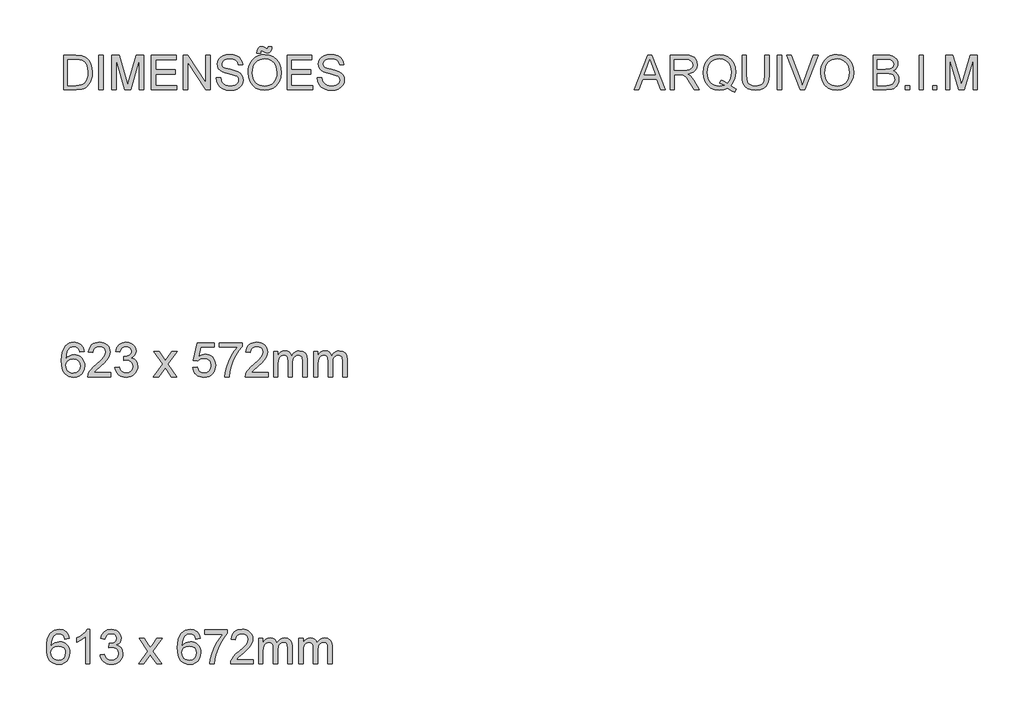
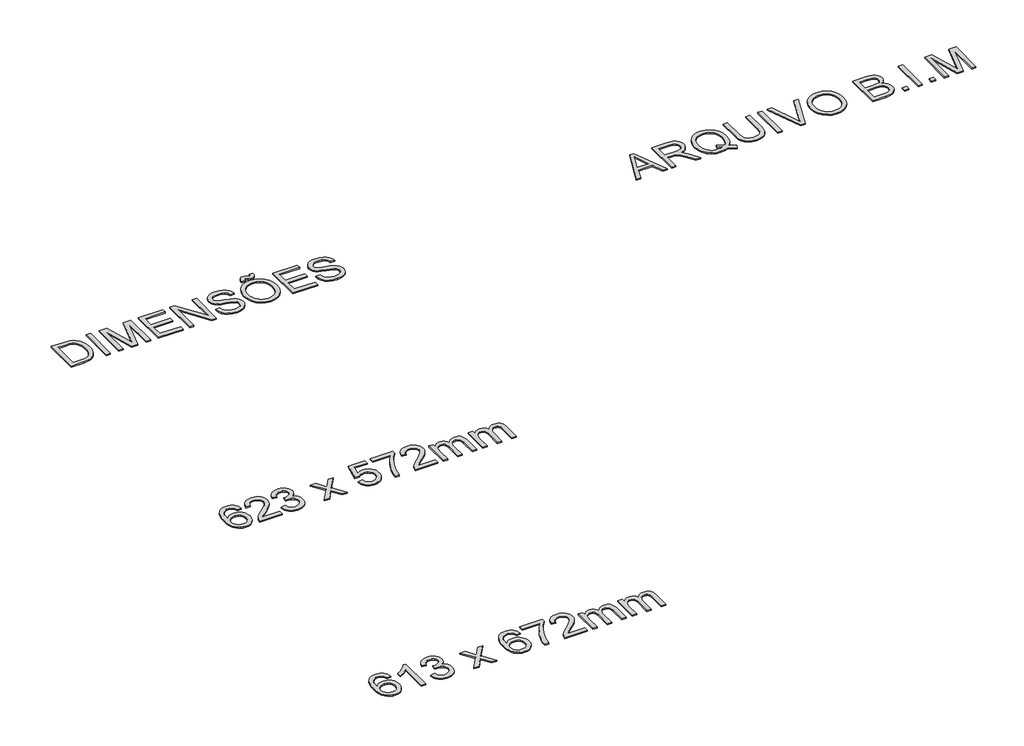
# One storey, part 35 of 39: 4 proxies.
"""IFC4 building model written with IfcOpenShell, lengths in millimetres."""

from ifc_helpers import new_model, si_unit, origin, origin_with_axes, place, context, project, spatial, polyline, outline, extrude, element, save

model = new_model("IFC4")

# Units and contexts
model_context = context("Model", 3, world=origin())
ifc_project = project(units=[si_unit("LENGTHUNIT", "METRE", prefix="MILLI")], contexts=[model_context])

# Site, building, storey
site = spatial("IfcSite", under=ifc_project)
building = spatial("IfcBuilding", under=site)
storey = spatial("IfcBuildingStorey", under=building, Name="Marelli - Linha PROFIT - Planta Baixa", Elevation=0.0)

# Proxies
placement = place(None, origin())
element("IfcBuildingElementProxy", 1, Name="300mm Arial", ObjectType="300mm Arial", at=placement, inside=storey, context=model_context, shape_type="SweptSolid", body=[
    extrude(outline(polyline([(-315.334731, 14219.4336799), (-315.334731, 14520.8026104), (-211.3712792, 14520.8026104), (-157.5869315, 14516.4616028), (-133.5642372, 14508.0922874), (-113.2939393, 14494.9037179), (-92.4534243, 14471.9478814), (-77.6093858, 14443.4002386), (-68.7250356, 14409.8126124), (-65.7635855, 14371.7368259), (-67.7685424, 14339.3908015), (-73.783413, 14310.9259321), (-82.9436747, 14286.6917057), (-94.3848047, 14267.0376101), (-107.5549802, 14251.522187), (-121.902378, 14239.7039779), (-138.3742943, 14230.9391893), (-157.9180253, 14224.5840279), (-206.3680841, 14219.4336799), (-315.334731, 14219.4336799)]), holes=[polyline([(-277.6636147, 14257.1047962), (-211.0033972, 14257.1047962), (-183.4306417, 14258.4659596), (-162.5165502, 14262.5494498), (-146.7344127, 14269.1161434), (-134.5575186, 14277.9269172), (-121.4701166, 14294.2332866), (-111.6384703, 14315.3405161), (-105.4856439, 14341.3405761), (-103.4347018, 14372.3254371), (-107.4538126, 14413.3810678), (-119.511145, 14443.6945442), (-137.3258306, 14464.5166651), (-158.6170011, 14477.0982294), (-180.2852506, 14481.6231779), (-212.0334668, 14483.1314941), (-277.6636147, 14483.1314941), (-277.6636147, 14257.1047962)])]), origin_with_axes(), (0.0, 0.0, 1.0), 10.0),
    extrude(outline(polyline([(-9.2569111, 14219.4336799), (-9.2569111, 14520.8026104), (28.4142052, 14520.8026104), (28.4142052, 14219.4336799), (-9.2569111, 14219.4336799)])), origin_with_axes(), (0.0, 0.0, 1.0), 10.0),
    extrude(outline(polyline([(103.7564379, 14219.4336799), (103.7564379, 14520.8026104), (168.5772454, 14520.8026104), (230.2342678, 14308.3875464), (242.6686792, 14264.0209777), (256.1331603, 14312.0663663), (316.7601131, 14520.8026104), (381.5809206, 14520.8026104), (381.5809206, 14219.4336799), (343.9098043, 14219.4336799), (343.9098043, 14483.1314941), (268.1996897, 14219.4336799), (217.1376688, 14219.4336799), (141.4275542, 14483.1314941), (141.4275542, 14219.4336799), (103.7564379, 14219.4336799)])), origin_with_axes(), (0.0, 0.0, 1.0), 10.0),
    extrude(outline(polyline([(447.5053742, 14219.4336799), (447.5053742, 14520.8026104), (664.1142929, 14520.8026104), (664.1142929, 14483.1314941), (485.1764905, 14483.1314941), (485.1764905, 14393.6625928), (654.6965138, 14393.6625928), (654.6965138, 14355.9914765), (485.1764905, 14355.9914765), (485.1764905, 14257.1047962), (668.8231825, 14257.1047962), (668.8231825, 14219.4336799), (447.5053742, 14219.4336799)])), origin_with_axes(), (0.0, 0.0, 1.0), 10.0),
    extrude(outline(polyline([(725.3298569, 14219.4336799), (725.3298569, 14520.8026104), (765.6497236, 14520.8026104), (923.1032175, 14282.0471955), (923.1032175, 14520.8026104), (960.7743338, 14520.8026104), (960.7743338, 14219.4336799), (920.4544672, 14219.4336799), (763.0009732, 14458.2626712), (763.0009732, 14219.4336799), (725.3298569, 14219.4336799)])), origin_with_axes(), (0.0, 0.0, 1.0), 10.0),
    extrude(outline(polyline([(1012.5721187, 14323.0292498), (1050.2432351, 14323.0292498), (1054.5658485, 14302.1243554), (1062.3833409, 14285.3213453), (1074.578629, 14271.9856229), (1092.0346297, 14261.482592), (1113.3717854, 14254.667578), (1137.2105387, 14252.3959067), (1158.1982065, 14254.115755), (1176.5739122, 14259.2753), (1191.463936, 14267.4422803), (1201.9945581, 14278.1844346), (1208.257749, 14290.5176784), (1210.3454794, 14303.4579276), (1208.7819809, 14316.067083), (1204.0914854, 14326.9655871), (1194.5633418, 14336.2638046), (1178.4868986, 14344.0720999), (1123.6356931, 14358.4562859), (1087.6292428, 14367.9752325), (1064.5906329, 14377.0343267), (1045.8378482, 14389.7078614), (1032.5481111, 14405.0669347), (1024.6294511, 14422.7804528), (1021.9898978, 14442.5173218), (1025.2548505, 14464.5810445), (1035.0497087, 14485.154845), (1051.1169548, 14502.5924516), (1073.1990716, 14515.2475923), (1099.7049693, 14522.945523), (1129.0435584, 14525.5114999), (1160.8285628, 14522.8259614), (1188.6404416, 14514.7693457), (1211.4859135, 14501.5071997), (1228.3716971, 14483.2050705), (1239.0586691, 14461.0033921), (1243.3077061, 14436.0425987), (1205.6365898, 14436.0425987), (1198.7204083, 14458.5201886), (1184.2994341, 14474.7437846), (1161.7666619, 14484.5662339), (1130.5150864, 14487.8403836), (1098.5277469, 14484.6030221), (1076.5835859, 14474.8909374), (1063.8916571, 14460.5987219), (1059.6610141, 14443.6209678), (1062.6592524, 14429.1448113), (1071.6539672, 14417.5013461), (1092.9175465, 14407.0902857), (1133.1638368, 14396.458496), (1174.697714, 14386.3601352), (1199.8240543, 14377.5493615), (1221.2991658, 14363.8825453), (1236.28116, 14347.0151559), (1245.0827367, 14327.131134), (1248.0165957, 14304.4144208), (1244.6412784, 14281.1918699), (1234.5153264, 14259.3488764), (1218.0526072, 14240.5501065), (1195.6669877, 14226.460226), (1168.7472227, 14217.6586493), (1138.6820667, 14214.7247904), (1101.7743055, 14217.8885756), (1071.3964498, 14227.379931), (1047.1990115, 14243.235645), (1028.8325029, 14265.4925057), (1017.041885, 14292.6054088), (1012.5721187, 14323.0292498)])), origin_with_axes(), (0.0, 0.0, 1.0), 10.0),
    extrude(outline(polyline([(1290.3966015, 14366.1450196), (1292.9073961, 14401.4938808), (1300.43978, 14432.786843), (1312.9937531, 14460.0239063), (1330.5693154, 14483.2050705), (1352.1134047, 14501.7141334), (1376.5729589, 14514.9348926), (1403.9479778, 14522.8673481), (1434.2384616, 14525.5114999), (1473.767382, 14520.545093), (1509.2128122, 14505.6458722), (1538.6433718, 14481.8623012), (1560.1276804, 14450.2428437), (1573.2610676, 14412.31421), (1577.6388633, 14369.6031104), (1573.0311413, 14326.3217936), (1559.2079754, 14287.859731), (1536.9327206, 14256.1850913), (1506.9687321, 14233.266043), (1471.8268045, 14219.3601035), (1434.0177324, 14214.7247904), (1393.8818067, 14219.8475472), (1358.2340414, 14235.2158175), (1328.8770582, 14259.4408469), (1307.6134789, 14291.1338808), (1294.7008208, 14327.6001836), (1290.3966015, 14366.1450196)]), holes=[polyline([(1328.0677178, 14365.7771376), (1329.9508138, 14340.8025487), (1335.6001017, 14318.6330599), (1345.0155815, 14299.2686714), (1358.1972532, 14282.7093831), (1374.2208134, 14269.4472372), (1392.1619584, 14259.9742758), (1412.0206884, 14254.290499), (1433.7970032, 14252.3959067), (1455.9457986, 14254.3088931), (1476.0390533, 14260.0478522), (1494.0767674, 14269.6127841), (1510.0589408, 14283.0036887), (1523.1440435, 14299.9124649), (1532.4905455, 14320.0310115), (1538.0984466, 14343.3593285), (1539.967747, 14369.897416), (1536.7671737, 14403.2459188), (1527.1654536, 14432.0694731), (1511.4109072, 14455.641512), (1489.7518547, 14473.2354684), (1463.623036, 14484.1891548), (1434.4591908, 14487.8403836), (1413.4393333, 14486.0814478), (1393.936989, 14480.8046405), (1375.952158, 14472.0099615), (1359.4848402, 14459.697411), (1345.7398492, 14443.2737792), (1335.9219984, 14422.1458563), (1330.031288, 14396.3136425), (1328.0677178, 14365.7771376)])]), origin_with_axes(), (0.0, 0.0, 1.0), 10.0),
    extrude(outline(polyline([(1365.7388341, 14539.6381685), (1368.5899196, 14562.7963401), (1377.4374816, 14580.7673756), (1390.7732039, 14592.3004761), (1407.383076, 14596.144843), (1421.2890154, 14593.1098165), (1437.5493996, 14584.0047372), (1452.7797142, 14577.3092848), (1460.7627535, 14581.0984694), (1464.6255144, 14596.144843), (1497.5877412, 14596.144843), (1494.3043944, 14571.4231729), (1485.6315763, 14553.7648371), (1472.7281154, 14543.1698357), (1456.7528397, 14539.6381685), (1442.7549298, 14542.5076481), (1426.9543981, 14551.1160868), (1411.0618959, 14558.4737267), (1402.0855752, 14553.6912607), (1398.7010609, 14539.6381685), (1365.7388341, 14539.6381685)])), origin_with_axes(), (0.0, 0.0, 1.0), 10.0),
    extrude(outline(polyline([(1629.4366483, 14219.4336799), (1629.4366483, 14520.8026104), (1846.045567, 14520.8026104), (1846.045567, 14483.1314941), (1667.1077646, 14483.1314941), (1667.1077646, 14393.6625928), (1836.6277879, 14393.6625928), (1836.6277879, 14355.9914765), (1667.1077646, 14355.9914765), (1667.1077646, 14257.1047962), (1850.7544566, 14257.1047962), (1850.7544566, 14219.4336799), (1629.4366483, 14219.4336799)])), origin_with_axes(), (0.0, 0.0, 1.0), 10.0),
    extrude(outline(polyline([(1893.1344624, 14323.0292498), (1930.8055787, 14323.0292498), (1935.1281922, 14302.1243554), (1942.9456845, 14285.3213453), (1955.1409727, 14271.9856229), (1972.5969734, 14261.482592), (1993.9341291, 14254.667578), (2017.7728824, 14252.3959067), (2038.7605502, 14254.115755), (2057.1362559, 14259.2753), (2072.0262796, 14267.4422803), (2082.5569017, 14278.1844346), (2088.8200927, 14290.5176784), (2090.907823, 14303.4579276), (2089.3443245, 14316.067083), (2084.6538291, 14326.9655871), (2075.1256854, 14336.2638046), (2059.0492422, 14344.0720999), (2004.1980367, 14358.4562859), (1968.1915865, 14367.9752325), (1945.1529765, 14377.0343267), (1926.4001918, 14389.7078614), (1913.1104547, 14405.0669347), (1905.1917948, 14422.7804528), (1902.5522415, 14442.5173218), (1905.8171942, 14464.5810445), (1915.6120523, 14485.154845), (1931.6792984, 14502.5924516), (1953.7614152, 14515.2475923), (1980.267313, 14522.945523), (2009.6059021, 14525.5114999), (2041.3909065, 14522.8259614), (2069.2027853, 14514.7693457), (2092.0482572, 14501.5071997), (2108.9340408, 14483.2050705), (2119.6210127, 14461.0033921), (2123.8700498, 14436.0425987), (2086.1989335, 14436.0425987), (2079.282752, 14458.5201886), (2064.8617777, 14474.7437846), (2042.3290055, 14484.5662339), (2011.0774301, 14487.8403836), (1979.0900906, 14484.6030221), (1957.1459296, 14474.8909374), (1944.4540007, 14460.5987219), (1940.2233578, 14443.6209678), (1943.221596, 14429.1448113), (1952.2163108, 14417.5013461), (1973.4798901, 14407.0902857), (2013.7261804, 14396.458496), (2055.2600577, 14386.3601352), (2080.3863979, 14377.5493615), (2101.8615094, 14363.8825453), (2116.8435037, 14347.0151559), (2125.6450804, 14327.131134), (2128.5789393, 14304.4144208), (2125.203622, 14281.1918699), (2115.0776701, 14259.3488764), (2098.6149508, 14240.5501065), (2076.2293314, 14226.460226), (2049.3095664, 14217.6586493), (2019.2444103, 14214.7247904), (1982.3366492, 14217.8885756), (1951.9587934, 14227.379931), (1927.7613552, 14243.235645), (1909.3948466, 14265.4925057), (1897.6042286, 14292.6054088), (1893.1344624, 14323.0292498)])), origin_with_axes(), (0.0, 0.0, 1.0), 10.0),
])
element("IfcBuildingElementProxy", 2, Name="300mm Arial", ObjectType="300mm Arial", at=placement, inside=storey, context=model_context, shape_type="SweptSolid", body=[
    extrude(outline(polyline([(4649.579499, 14219.4336799), (4769.8769114, 14520.8026104), (4801.9562214, 14520.8026104), (4922.2536338, 14219.4336799), (4882.448802, 14219.4336799), (4847.9414708, 14313.6114707), (4723.8180857, 14313.6114707), (4689.3843309, 14219.4336799), (4649.579499, 14219.4336799)]), holes=[polyline([(4737.6504487, 14351.282587), (4834.1826842, 14351.282587), (4807.032993, 14425.3740208), (4785.9165664, 14483.1314941), (4767.1545847, 14431.8487439), (4737.6504487, 14351.282587)])]), origin_with_axes(), (0.0, 0.0, 1.0), 10.0),
    extrude(outline(polyline([(4962.4999241, 14219.4336799), (4962.4999241, 14520.8026104), (5092.3622684, 14520.8026104), (5127.2650727, 14518.7700624), (5152.6581274, 14512.6724183), (5171.2177741, 14501.4152292), (5185.6203542, 14483.9040463), (5194.8633893, 14462.1898115), (5197.944401, 14438.3234671), (5192.8400384, 14408.6353901), (5177.5269503, 14384.0240846), (5165.9271711, 14373.9947017), (5151.5452844, 14365.9794727), (5114.4351881, 14355.9914765), (5135.8459202, 14339.8782452), (5166.3801258, 14301.1034829), (5216.6328064, 14219.4336799), (5172.854849, 14219.4336799), (5133.6386283, 14281.9000427), (5105.3117146, 14323.249979), (5085.4092987, 14342.7845129), (5067.4934455, 14349.9582118), (5045.641255, 14351.282587), (5000.1710404, 14351.282587), (5000.1710404, 14219.4336799), (4962.4999241, 14219.4336799)]), holes=[polyline([(5000.1710404, 14388.9537033), (5084.4895937, 14388.9537033), (5108.7054261, 14390.2872755), (5127.494999, 14394.2879922), (5141.6400617, 14401.2225678), (5151.9223634, 14411.3577168), (5158.1855544, 14423.6173843), (5160.2732847, 14436.9255155), (5156.2909621, 14455.3012211), (5144.3439943, 14470.1084714), (5123.7885879, 14479.8757384), (5093.9809492, 14483.1314941), (5000.1710404, 14483.1314941), (5000.1710404, 14388.9537033)])]), origin_with_axes(), (0.0, 0.0, 1.0), 10.0),
    extrude(outline(polyline([(5490.2634344, 14255.5596919), (5514.5988284, 14236.963257), (5536.9844478, 14224.1425695), (5526.8309047, 14196.5514198), (5495.7632702, 14210.9539999), (5464.8060003, 14231.794515), (5429.9491813, 14218.9922215), (5391.5974833, 14214.7247904), (5353.0618443, 14219.6452121), (5318.2418135, 14234.4064771), (5289.0779683, 14258.0796835), (5267.5108863, 14289.7359292), (5254.184361, 14327.6369718), (5249.742186, 14370.0445688), (5254.175164, 14412.488954), (5267.4740981, 14450.9418195), (5288.9584066, 14483.0487206), (5317.9475079, 14506.4552126), (5352.63878, 14520.7474281), (5391.2296013, 14525.5114999), (5430.1239252, 14520.6370635), (5464.9899413, 14506.0137542), (5493.9330573, 14482.6164593), (5515.0586809, 14451.4200661), (5527.9713389, 14414.0800436), (5532.2755583, 14372.2518607), (5529.6635961, 14337.4686181), (5521.8277096, 14306.4009836), (5508.7127165, 14279.0857454), (5490.2634344, 14255.5596919)]), holes=[polyline([(5401.9717556, 14305.6652196), (5433.6463953, 14293.6906607), (5459.214194, 14277.0440004), (5474.6974275, 14294.5183951), (5485.75688, 14315.8923391), (5492.3925514, 14341.1658321), (5494.6044419, 14370.3388744), (5491.477445, 14403.4942392), (5482.0964541, 14432.1798377), (5466.6913956, 14455.6691031), (5445.4921956, 14473.2354684), (5419.933594, 14484.1891548), (5391.4503305, 14487.8403836), (5369.966022, 14485.9940758), (5350.3946998, 14480.4551526), (5332.7363641, 14471.2236137), (5316.9910147, 14458.2994594), (5304.0507655, 14441.7102807), (5294.8077304, 14421.4836687), (5289.2619093, 14397.6196236), (5287.4133023, 14370.1181452), (5289.2412159, 14343.3340366), (5294.7249569, 14319.8562676), (5303.8645252, 14299.6848379), (5316.6599209, 14282.8197477), (5332.2972049, 14269.5093173), (5349.9624385, 14260.0018669), (5369.6556215, 14254.2973968), (5391.3767541, 14252.3959067), (5412.2908455, 14254.3272872), (5431.91735, 14260.1214286), (5412.6219393, 14270.146213), (5392.2596709, 14276.8232712), (5401.9717556, 14305.6652196)])]), origin_with_axes(), (0.0, 0.0, 1.0), 10.0),
    extrude(outline(polyline([(5786.5555933, 14520.8026104), (5824.2267096, 14520.8026104), (5824.2267096, 14346.9415795), (5821.6699298, 14306.2262396), (5813.9995902, 14274.8734966), (5799.6705864, 14250.6852554), (5777.1378142, 14231.4634212), (5746.3460912, 14218.9094481), (5707.2402352, 14214.7247904), (5668.9897047, 14218.3668221), (5638.4095139, 14229.2929174), (5615.4904656, 14247.1259971), (5600.2233628, 14271.4889822), (5591.6425152, 14304.1661005), (5588.7822327, 14346.9415795), (5588.7822327, 14520.8026104), (5626.453349, 14520.8026104), (5626.453349, 14348.2659546), (5628.3111531, 14314.411614), (5633.8845653, 14290.8395752), (5643.9829261, 14274.5148117), (5659.4155758, 14262.402297), (5679.5387209, 14254.8975043), (5703.708568, 14252.3959067), (5742.0234778, 14257.3439195), (5756.3662771, 14263.5289356), (5767.499306, 14272.187958), (5775.8364317, 14284.3648521), (5781.7915215, 14301.1034829), (5786.5555933, 14348.2659546), (5786.5555933, 14520.8026104)])), origin_with_axes(), (0.0, 0.0, 1.0), 10.0),
    extrude(outline(polyline([(5894.8600527, 14219.4336799), (5894.8600527, 14520.8026104), (5932.531169, 14520.8026104), (5932.531169, 14219.4336799), (5894.8600527, 14219.4336799)])), origin_with_axes(), (0.0, 0.0, 1.0), 10.0),
    extrude(outline(polyline([(6096.9008444, 14219.4336799), (5976.971314, 14520.8026104), (6017.2911807, 14520.8026104), (6097.563032, 14303.6786568), (6113.8234162, 14254.7503515), (6129.8630712, 14303.6786568), (6210.3556518, 14520.8026104), (6250.6755184, 14520.8026104), (6135.8227595, 14219.4336799), (6096.9008444, 14219.4336799)])), origin_with_axes(), (0.0, 0.0, 1.0), 10.0),
    extrude(outline(polyline([(6271.5712158, 14366.1450196), (6274.0820104, 14401.4938808), (6281.6143942, 14432.786843), (6294.1683673, 14460.0239063), (6311.7439296, 14483.2050705), (6333.288019, 14501.7141334), (6357.7475731, 14514.9348926), (6385.1225921, 14522.8673481), (6415.4130759, 14525.5114999), (6454.9419963, 14520.545093), (6490.3874265, 14505.6458722), (6519.8179861, 14481.8623012), (6541.3022946, 14450.2428437), (6554.4356819, 14412.31421), (6558.8134776, 14369.6031104), (6554.2057556, 14326.3217936), (6540.3825896, 14287.859731), (6518.1073348, 14256.1850913), (6488.1433463, 14233.266043), (6453.0014187, 14219.3601035), (6415.1923467, 14214.7247904), (6375.056421, 14219.8475472), (6339.4086557, 14235.2158175), (6310.0516725, 14259.4408469), (6288.7880931, 14291.1338808), (6275.8754351, 14327.6001836), (6271.5712158, 14366.1450196)]), holes=[polyline([(6309.2423321, 14365.7771376), (6311.125428, 14340.8025487), (6316.7747159, 14318.6330599), (6326.1901957, 14299.2686714), (6339.3718675, 14282.7093831), (6355.3954276, 14269.4472372), (6373.3365727, 14259.9742758), (6393.1953026, 14254.290499), (6414.9716175, 14252.3959067), (6437.1204129, 14254.3088931), (6457.2136676, 14260.0478522), (6475.2513817, 14269.6127841), (6491.2335551, 14283.0036887), (6504.3186578, 14299.9124649), (6513.6651597, 14320.0310115), (6519.2730609, 14343.3593285), (6521.1423613, 14369.897416), (6517.9417879, 14403.2459188), (6508.3400679, 14432.0694731), (6492.5855214, 14455.641512), (6470.9264689, 14473.2354684), (6444.7976502, 14484.1891548), (6415.6338051, 14487.8403836), (6394.6139476, 14486.0814478), (6375.1116033, 14480.8046405), (6357.1267723, 14472.0099615), (6340.6594545, 14459.697411), (6326.9144634, 14443.2737792), (6317.0966127, 14422.1458563), (6311.2059022, 14396.3136425), (6309.2423321, 14365.7771376)])]), origin_with_axes(), (0.0, 0.0, 1.0), 10.0),
    extrude(outline(polyline([(6728.333501, 14219.4336799), (6728.333501, 14520.8026104), (6843.3334127, 14520.8026104), (6874.9620672, 14518.5861214), (6899.6561461, 14511.9366543), (6918.5836748, 14500.6886623), (6932.9126785, 14484.6765985), (6941.9349844, 14465.8410403), (6944.9424197, 14446.1225654), (6942.413231, 14427.9767859), (6934.8256649, 14410.9162584), (6922.124539, 14395.9894465), (6904.2546711, 14384.2448138), (6925.6010238, 14373.0979893), (6941.3739644, 14356.1386293), (6951.1136402, 14334.4887739), (6954.3601988, 14309.2704632), (6952.1437098, 14288.2552042), (6945.4942427, 14268.7666555), (6935.5706259, 14252.1935716), (6923.5316876, 14239.9247071), (6908.7888167, 14231.0403569), (6890.7534018, 14224.6208161), (6842.4504959, 14219.4336799), (6728.333501, 14219.4336799)]), holes=[polyline([(6766.0046173, 14398.3714824), (6834.7985504, 14398.3714824), (6874.9712642, 14401.6088439), (6889.0335535, 14407.1914532), (6899.1411113, 14415.5515716), (6905.2387554, 14426.5604403), (6907.2713034, 14440.0893006), (6905.3767111, 14453.2226879), (6899.6929343, 14464.6638179), (6890.4774903, 14473.5941533), (6877.9878966, 14479.1951567), (6829.574626, 14483.1314941), (6766.0046173, 14483.1314941), (6766.0046173, 14398.3714824)]), polyline([(6766.0046173, 14257.1047962), (6843.2598363, 14257.1047962), (6871.2188679, 14258.5763242), (6894.8736802, 14266.7800927), (6910.5454532, 14283.5187235), (6915.1531752, 14295.3461296), (6916.6890825, 14308.9025812), (6914.8864607, 14324.6479306), (6909.4785954, 14338.185988), (6900.0332252, 14348.7717924), (6886.1180887, 14355.6603827), (6866.4088108, 14359.4403702), (6839.5810163, 14360.7003661), (6766.0046173, 14360.7003661), (6766.0046173, 14257.1047962)])]), origin_with_axes(), (0.0, 0.0, 1.0), 10.0),
    extrude(outline(polyline([(7010.8668733, 14219.4336799), (7010.8668733, 14257.1047962), (7048.5379896, 14257.1047962), (7048.5379896, 14219.4336799), (7010.8668733, 14219.4336799)])), origin_with_axes(), (0.0, 0.0, 1.0), 10.0),
    extrude(outline(polyline([(7128.5891117, 14219.4336799), (7128.5891117, 14520.8026104), (7166.260228, 14520.8026104), (7166.260228, 14219.4336799), (7128.5891117, 14219.4336799)])), origin_with_axes(), (0.0, 0.0, 1.0), 10.0),
    extrude(outline(polyline([(7246.3113502, 14219.4336799), (7246.3113502, 14257.1047962), (7283.9824665, 14257.1047962), (7283.9824665, 14219.4336799), (7246.3113502, 14219.4336799)])), origin_with_axes(), (0.0, 0.0, 1.0), 10.0),
    extrude(outline(polyline([(7359.3246991, 14219.4336799), (7359.3246991, 14520.8026104), (7424.1455066, 14520.8026104), (7485.802529, 14308.3875464), (7498.2369405, 14264.0209777), (7511.7014215, 14312.0663663), (7572.3283743, 14520.8026104), (7637.1491819, 14520.8026104), (7637.1491819, 14219.4336799), (7599.4780655, 14219.4336799), (7599.4780655, 14483.1314941), (7523.7679509, 14219.4336799), (7472.70593, 14219.4336799), (7396.9958154, 14483.1314941), (7396.9958154, 14219.4336799), (7359.3246991, 14219.4336799)])), origin_with_axes(), (0.0, 0.0, 1.0), 10.0),
])
element("IfcBuildingElementProxy", 3, Name="300mm Arial", ObjectType="300mm Arial", at=placement, inside=storey, context=model_context, shape_type="SweptSolid", body=[
    extrude(outline(polyline([(-136.3969286, 11940.7514882), (-174.0680449, 11936.0425987), (-180.1380978, 11954.7126099), (-188.3418663, 11967.4597211), (-205.429985, 11979.2135508), (-226.086559, 11983.1314941), (-243.597742, 11980.8506257), (-260.0788554, 11974.0080206), (-274.2331151, 11959.5962434), (-285.7938068, 11939.7582068), (-293.6021022, 11911.6980077), (-296.4991729, 11872.6197427), (-281.3884199, 11890.2504873), (-263.2794287, 11902.6757017), (-243.1838747, 11910.0425387), (-222.1134335, 11912.498151), (-204.0136393, 11910.8196894), (-187.3117967, 11905.7843046), (-172.0079057, 11897.3919966), (-158.1019663, 11885.6427654), (-146.5458731, 11871.2355867), (-138.2915209, 11854.8694365), (-133.3389095, 11836.5443146), (-131.6880391, 11816.2602211), (-134.7966419, 11789.2852738), (-144.1224505, 11764.2784951), (-158.8929126, 11743.0700981), (-178.335476, 11727.4902956), (-201.567224, 11717.9161667), (-227.7052398, 11714.7247904), (-250.1621363, 11716.8401119), (-270.4439306, 11723.1860763), (-288.5506225, 11733.7626836), (-304.4822122, 11748.5699339), (-317.4707459, 11768.2332266), (-326.7482699, 11793.377961), (-332.3147844, 11824.0041371), (-334.1702892, 11860.1117549), (-332.11015, 11900.5925699), (-325.9297325, 11935.1412878), (-315.6290366, 11963.7579085), (-301.2080624, 11986.442432), (-285.5776762, 12001.4750101), (-267.4548894, 12012.2125658), (-246.8397021, 12018.6550992), (-223.7321142, 12020.8026104), (-190.677917, 12015.4867156), (-164.2088074, 11999.5390311), (-145.6675549, 11974.2103557), (-136.3969286, 11940.7514882)]), holes=[polyline([(-296.4991729, 11816.8488323), (-294.3194721, 11800.1561867), (-287.7803696, 11784.2176993), (-277.6268265, 11770.514095), (-264.6038039, 11760.5260988), (-248.8860457, 11754.4284547), (-230.6482958, 11752.3959067), (-205.7886699, 11756.6081555), (-186.2449389, 11769.2449021), (-173.5806013, 11789.1105298), (-169.3591554, 11815.0094223), (-173.525419, 11839.8690481), (-186.0242097, 11858.8241679), (-205.8990345, 11870.826318), (-232.1934001, 11874.8270347), (-257.0162378, 11870.826318), (-277.7739793, 11858.8241679), (-291.8178745, 11840.3289006), (-296.4991729, 11816.8488323)])]), origin_with_axes(), (0.0, 0.0, 1.0), 10.0),
    extrude(outline(polyline([(94.3386588, 11757.1047962), (94.3386588, 11719.4336799), (-103.4347018, 11719.4336799), (-99.3879999, 11745.4061488), (-90.0989795, 11765.7040379), (-76.5057398, 11785.3949217), (-56.8424471, 11806.0055104), (-29.343268, 11829.0625145), (11.3076925, 11865.1701323), (35.6982688, 11891.8231829), (47.8935569, 11913.4546442), (51.9586529, 11934.4974943), (48.1234831, 11953.3606436), (36.6179737, 11969.0416137), (18.9320468, 11979.609024), (-3.4443755, 11983.1314941), (-26.942838, 11979.6917974), (-45.198982, 11969.3727075), (-56.9804029, 11952.9835646), (-61.054696, 11931.3337092), (-98.7258123, 11936.0425987), (-89.5931418, 11972.4813103), (-81.0467832, 11987.0172476), (-69.8470757, 11999.0975727), (-56.2515367, 12008.5935267), (-40.5176836, 12015.376351), (-2.6350351, 12020.8026104), (17.5547886, 12019.2942942), (35.5235248, 12014.7693457), (51.2711735, 12007.2277648), (64.7977346, 11996.6695515), (75.6617497, 11983.8764551), (83.4217606, 11969.6302249), (88.0777671, 11953.9308607), (89.6297692, 11936.7783627), (87.9559062, 11918.761342), (82.9343169, 11901.057021), (74.0223756, 11883.0491973), (60.6774562, 11864.1216686), (39.4046799, 11841.5245171), (6.7091675, 11812.5078247), (-36.6273315, 11776.2714482), (-53.6234797, 11757.1047962), (94.3386588, 11757.1047962)])), origin_with_axes(), (0.0, 0.0, 1.0), 10.0),
    extrude(outline(polyline([(132.0097751, 11799.4848021), (169.6808914, 11804.1936916), (178.1145861, 11780.5204852), (190.4662241, 11764.5360125), (207.3428107, 11755.4309332), (229.351351, 11752.3959067), (255.1766671, 11756.5713673), (275.1158712, 11769.0977493), (287.8629823, 11787.7861546), (292.1120194, 11810.4476855), (287.8997705, 11831.9595852), (275.263024, 11849.4063888), (256.1331603, 11860.9670805), (232.4415598, 11864.8206444), (206.0276325, 11860.7003661), (210.2214873, 11898.3714824), (216.254752, 11897.930024), (238.8243124, 11900.6339567), (259.0026398, 11908.7457546), (273.239673, 11922.4677531), (277.9853508, 11942.002287), (274.5456541, 11958.2718683), (264.2265642, 11971.4696348), (248.4812148, 11980.2160293), (228.7627398, 11983.1314941), (209.0074767, 11980.1884381), (192.8574571, 11971.3592702), (181.0668391, 11956.6439904), (174.3897809, 11936.0425987), (136.7186646, 11940.7514882), (147.8103068, 11974.5782377), (167.5471758, 11999.8333367), (194.5497143, 12015.5602919), (227.4383646, 12020.8026104), (251.1207681, 12018.2182394), (272.871791, 12010.4651263), (291.2107085, 11998.23305), (304.6567954, 11982.2117891), (312.9065492, 11963.75331), (315.6564671, 11944.209579), (313.0445049, 11925.9994202), (305.2086184, 11909.4815186), (292.2591722, 11895.4100323), (274.3065308, 11884.5391194), (297.8877667, 11875.0109757), (315.3621615, 11858.7873797), (326.1778921, 11836.7512482), (329.7831357, 11809.7854979), (327.9805139, 11790.6740283), (322.5726486, 11773.0708748), (313.5595397, 11756.9760375), (300.9411873, 11742.3895164), (285.5683184, 11730.2861988), (268.2916602, 11721.6409719), (249.1112127, 11716.4538358), (228.0269758, 11714.7247904), (208.9706885, 11716.2009169), (191.6066583, 11720.6292964), (175.9348853, 11728.0099289), (161.9553695, 11738.3428145), (150.2337294, 11751.0209477), (141.3355837, 11765.4373234), (135.2609322, 11781.5919415), (132.0097751, 11799.4848021)])), origin_with_axes(), (0.0, 0.0, 1.0), 10.0),
    extrude(outline(polyline([(466.3409323, 11719.4336799), (546.8335129, 11830.6811953), (471.0498218, 11940.7514882), (516.3728837, 11940.7514882), (552.940354, 11887.7764809), (570.0100785, 11862.7605053), (584.7989348, 11883.2147442), (626.4431766, 11940.7514882), (671.7662384, 11940.7514882), (592.1565747, 11830.6811953), (668.8231825, 11719.4336799), (623.5001206, 11719.4336799), (577.3677185, 11786.3146267), (568.9064326, 11798.5283089), (511.6639941, 11719.4336799), (466.3409323, 11719.4336799)])), origin_with_axes(), (0.0, 0.0, 1.0), 10.0),
    extrude(outline(polyline([(810.0898686, 11799.4848021), (847.7609849, 11804.1936916), (854.6771664, 11781.578146), (866.7436959, 11765.3821411), (883.9053909, 11755.6424653), (906.1070693, 11752.3959067), (933.1096078, 11756.9116582), (953.3431175, 11770.4589127), (965.9798641, 11791.4741716), (970.1921129, 11818.3939366), (966.2465785, 11843.7410061), (954.4099753, 11863.1283872), (934.5903328, 11875.43404), (906.6956805, 11879.5359242), (888.4211424, 11877.8988494), (873.6230892, 11872.9876247), (852.4698744, 11855.9914765), (814.7987581, 11860.7003661), (847.7609849, 12016.0937208), (993.7365606, 12016.0937208), (993.7365606, 11978.4226045), (878.2216141, 11978.4226045), (862.1083827, 11895.4284264), (889.0189507, 11911.762387), (917.2171056, 11917.2070405), (935.5629208, 11915.5193819), (952.4142155, 11910.4564059), (967.7709895, 11902.0181127), (981.633243, 11890.2045021), (993.1088619, 11875.7375426), (1001.3057326, 11859.3392027), (1006.2238551, 11841.0094823), (1007.8632292, 11820.7483814), (1001.9587232, 11783.0772651), (994.5780907, 11766.283452), (984.2452051, 11750.8508023), (968.5918262, 11735.0456721), (950.3264852, 11723.7562934), (929.4491819, 11716.9826661), (905.9599165, 11714.7247904), (868.9601849, 11720.5281289), (853.2815141, 11727.782302), (839.48364, 11737.9381443), (828.0034225, 11750.4898181), (819.2777214, 11764.9314857), (810.0898686, 11799.4848021)])), origin_with_axes(), (0.0, 0.0, 1.0), 10.0),
    extrude(outline(polyline([(1040.825456, 11978.4226045), (1040.825456, 12016.0937208), (1238.5988166, 12016.0937208), (1238.5988166, 11985.6330916), (1210.4098587, 11949.9577352), (1182.4968123, 11904.5886881), (1157.8763098, 11853.6646229), (1139.5649835, 11801.3242121), (1130.5886628, 11762.1631737), (1125.5854677, 11719.4336799), (1087.9143514, 11719.4336799), (1091.9886445, 11758.2636245), (1102.8871486, 11804.4144208), (1120.3155581, 11853.3335291), (1143.9795674, 11900.4684098), (1171.6075053, 11943.0783418), (1200.9277003, 11978.4226045), (1040.825456, 11978.4226045)])), origin_with_axes(), (0.0, 0.0, 1.0), 10.0),
    extrude(outline(polyline([(1464.6255144, 11757.1047962), (1464.6255144, 11719.4336799), (1266.8521538, 11719.4336799), (1270.8988558, 11745.4061488), (1280.1878761, 11765.7040379), (1293.7811159, 11785.3949217), (1313.4444085, 11806.0055104), (1340.9435876, 11829.0625145), (1381.5945481, 11865.1701323), (1405.9851244, 11891.8231829), (1418.1804125, 11913.4546442), (1422.2455086, 11934.4974943), (1418.4103388, 11953.3606436), (1406.9048294, 11969.0416137), (1389.2189025, 11979.609024), (1366.8424801, 11983.1314941), (1343.3440177, 11979.6917974), (1325.0878736, 11969.3727075), (1313.3064528, 11952.9835646), (1309.2321597, 11931.3337092), (1271.5610434, 11936.0425987), (1280.6937139, 11972.4813103), (1289.2400725, 11987.0172476), (1300.43978, 11999.0975727), (1314.035319, 12008.5935267), (1329.769172, 12015.376351), (1367.6518205, 12020.8026104), (1387.8416442, 12019.2942942), (1405.8103804, 12014.7693457), (1421.5580291, 12007.2277648), (1435.0845902, 11996.6695515), (1445.9486054, 11983.8764551), (1453.7086162, 11969.6302249), (1458.3646227, 11953.9308607), (1459.9166249, 11936.7783627), (1458.2427618, 11918.761342), (1453.2211726, 11901.057021), (1444.3092312, 11883.0491973), (1430.9643119, 11864.1216686), (1409.6915355, 11841.5245171), (1376.9960232, 11812.5078247), (1333.6595241, 11776.2714482), (1316.663376, 11757.1047962), (1464.6255144, 11757.1047962)])), origin_with_axes(), (0.0, 0.0, 1.0), 10.0),
    extrude(outline(polyline([(1511.7144098, 11719.4336799), (1511.7144098, 11940.7514882), (1549.3855261, 11940.7514882), (1549.3855261, 11904.3311707), (1560.7162916, 11921.0606044), (1575.2844186, 11934.1664005), (1592.5932664, 11942.6368835), (1612.1461945, 11945.4603778), (1633.0970741, 11942.5817012), (1649.8908872, 11933.9456713), (1662.4356632, 11920.1225054), (1670.6394317, 11901.6824203), (1684.3706272, 11920.8352767), (1700.0332031, 11934.5158884), (1717.6271596, 11942.7242554), (1737.1524964, 11945.4603778), (1765.470213, 11940.9078381), (1786.4118956, 11927.250219), (1799.3521448, 11904.1196386), (1803.6655612, 11871.1482147), (1803.6655612, 11719.4336799), (1765.9944449, 11719.4336799), (1765.9944449, 11854.961407), (1762.4995659, 11886.4153175), (1757.5883413, 11895.0881356), (1749.8444253, 11901.9031495), (1739.8840203, 11906.3177335), (1728.3233286, 11907.7892615), (1707.9150749, 11904.018471), (1691.2776116, 11892.7060997), (1680.2135606, 11873.0795952), (1676.5255436, 11844.3664055), (1676.5255436, 11719.4336799), (1638.8544273, 11719.4336799), (1638.8544273, 11859.1552617), (1636.6747265, 11880.4556292), (1630.135624, 11895.6491556), (1618.6301147, 11904.754235), (1601.551193, 11907.7892615), (1587.0382483, 11905.7659105), (1573.6657378, 11899.6958576), (1562.6292779, 11889.7262555), (1555.1244852, 11876.0042571), (1550.8202659, 11856.9663638), (1549.3855261, 11831.0490773), (1549.3855261, 11719.4336799), (1511.7144098, 11719.4336799)])), origin_with_axes(), (0.0, 0.0, 1.0), 10.0),
    extrude(outline(polyline([(1860.1722356, 11719.4336799), (1860.1722356, 11940.7514882), (1897.8433519, 11940.7514882), (1897.8433519, 11904.3311707), (1909.1741174, 11921.0606044), (1923.7422444, 11934.1664005), (1941.0510923, 11942.6368835), (1960.6040203, 11945.4603778), (1981.5548999, 11942.5817012), (1998.348713, 11933.9456713), (2010.8934891, 11920.1225054), (2019.0972575, 11901.6824203), (2032.828453, 11920.8352767), (2048.491029, 11934.5158884), (2066.0849854, 11942.7242554), (2085.6103223, 11945.4603778), (2113.9280389, 11940.9078381), (2134.8697214, 11927.250219), (2147.8099706, 11904.1196386), (2152.123387, 11871.1482147), (2152.123387, 11719.4336799), (2114.4522707, 11719.4336799), (2114.4522707, 11854.961407), (2110.9573917, 11886.4153175), (2106.0461671, 11895.0881356), (2098.3022511, 11901.9031495), (2088.3418461, 11906.3177335), (2076.7811544, 11907.7892615), (2056.3729007, 11904.018471), (2039.7354375, 11892.7060997), (2028.6713865, 11873.0795952), (2024.9833695, 11844.3664055), (2024.9833695, 11719.4336799), (1987.3122532, 11719.4336799), (1987.3122532, 11859.1552617), (1985.1325523, 11880.4556292), (1978.5934499, 11895.6491556), (1967.0879405, 11904.754235), (1950.0090189, 11907.7892615), (1935.4960741, 11905.7659105), (1922.1235636, 11899.6958576), (1911.0871038, 11889.7262555), (1903.5823111, 11876.0042571), (1899.2780917, 11856.9663638), (1897.8433519, 11831.0490773), (1897.8433519, 11719.4336799), (1860.1722356, 11719.4336799)])), origin_with_axes(), (0.0, 0.0, 1.0), 10.0),
])
element("IfcBuildingElementProxy", 4, Name="300mm Arial", ObjectType="300mm Arial", at=placement, inside=storey, context=model_context, shape_type="SweptSolid", body=[
    extrude(outline(polyline([(-265.8913909, 9440.7514882), (-303.5625072, 9436.0425987), (-309.6325601, 9454.7126099), (-317.8363286, 9467.4597211), (-334.9244473, 9479.2135508), (-355.5810213, 9483.1314941), (-373.0922043, 9480.8506257), (-389.5733177, 9474.0080206), (-403.7275774, 9459.5962434), (-415.2882691, 9439.7582068), (-423.0965645, 9411.6980077), (-425.9936352, 9372.6197427), (-410.8828822, 9390.2504873), (-392.773891, 9402.6757017), (-372.678337, 9410.0425387), (-351.6078958, 9412.498151), (-333.5081016, 9410.8196894), (-316.806259, 9405.7843046), (-301.502368, 9397.3919966), (-287.5964286, 9385.6427654), (-276.0403354, 9371.2355867), (-267.7859832, 9354.8694365), (-262.8333718, 9336.5443146), (-261.1825014, 9316.2602211), (-264.2911042, 9289.2852738), (-273.6169128, 9264.2784951), (-288.3873749, 9243.0700981), (-307.8299383, 9227.4902956), (-331.0616863, 9217.9161667), (-357.1997021, 9214.7247904), (-379.6565986, 9216.8401119), (-399.9383929, 9223.1860763), (-418.0450848, 9233.7626836), (-433.9766745, 9248.5699339), (-446.9652082, 9268.2332266), (-456.2427322, 9293.377961), (-461.8092467, 9324.0041371), (-463.6647515, 9360.1117549), (-461.6046123, 9400.5925699), (-455.4241948, 9435.1412878), (-445.1234989, 9463.7579085), (-430.7025247, 9486.442432), (-415.0721385, 9501.4750101), (-396.9493517, 9512.2125658), (-376.3341644, 9518.6550992), (-353.2265765, 9520.8026104), (-320.1723793, 9515.4867156), (-293.7032697, 9499.5390311), (-275.1620172, 9474.2103557), (-265.8913909, 9440.7514882)]), holes=[polyline([(-425.9936352, 9316.8488323), (-423.8139344, 9300.1561867), (-417.2748319, 9284.2176993), (-407.1212888, 9270.514095), (-394.0982662, 9260.5260988), (-378.380508, 9254.4284547), (-360.1427581, 9252.3959067), (-335.2831322, 9256.6081555), (-315.7394012, 9269.2449021), (-303.0750636, 9289.1105298), (-298.8536177, 9315.0094223), (-303.0198813, 9339.8690481), (-315.518672, 9358.8241679), (-335.3934968, 9370.826318), (-361.6878624, 9374.8270347), (-386.5107001, 9370.826318), (-407.2684416, 9358.8241679), (-421.3123368, 9340.3289006), (-425.9936352, 9316.8488323)])]), origin_with_axes(), (0.0, 0.0, 1.0), 10.0),
    extrude(outline(polyline([(-86.9535884, 9219.4336799), (-124.6247047, 9219.4336799), (-124.6247047, 9454.2895457), (-160.3092583, 9428.8688998), (-199.9669374, 9409.8494006), (-199.9669374, 9445.4603778), (-170.3800279, 9461.5552151), (-144.7478499, 9480.7034729), (-124.5419313, 9501.0657413), (-111.2338001, 9520.8026104), (-86.9535884, 9520.8026104), (-86.9535884, 9219.4336799)])), origin_with_axes(), (0.0, 0.0, 1.0), 10.0),
    extrude(outline(polyline([(2.5153128, 9299.4848021), (40.1864291, 9304.1936916), (48.6201238, 9280.5204852), (60.9717618, 9264.5360125), (77.8483484, 9255.4309332), (99.8568887, 9252.3959067), (125.6822048, 9256.5713673), (145.6214089, 9269.0977493), (158.36852, 9287.7861546), (162.6175571, 9310.4476855), (158.4053082, 9331.9595852), (145.7685617, 9349.4063888), (126.638698, 9360.9670805), (102.9470975, 9364.8206444), (76.5331702, 9360.7003661), (80.727025, 9398.3714824), (86.7602897, 9397.930024), (109.3298501, 9400.6339567), (129.5081775, 9408.7457546), (143.7452107, 9422.4677531), (148.4908885, 9442.002287), (145.0511918, 9458.2718683), (134.7321019, 9471.4696348), (118.9867525, 9480.2160293), (99.2682775, 9483.1314941), (79.5130144, 9480.1884381), (63.3629948, 9471.3592702), (51.5723768, 9456.6439904), (44.8953186, 9436.0425987), (7.2242023, 9440.7514882), (18.3158445, 9474.5782377), (38.0527135, 9499.8333367), (65.055252, 9515.5602919), (97.9439023, 9520.8026104), (121.6263058, 9518.2182394), (143.3773287, 9510.4651263), (161.7162462, 9498.23305), (175.1623331, 9482.2117891), (183.4120869, 9463.75331), (186.1620048, 9444.209579), (183.5500426, 9425.9994202), (175.7141561, 9409.4815186), (162.7647099, 9395.4100323), (144.8120685, 9384.5391194), (168.3933044, 9375.0109757), (185.8676992, 9358.7873797), (196.6834298, 9336.7512482), (200.2886734, 9309.7854979), (198.4860516, 9290.6740283), (193.0781863, 9273.0708748), (184.0650774, 9256.9760375), (171.446725, 9242.3895164), (156.0738561, 9230.2861988), (138.7971979, 9221.6409719), (119.6167504, 9216.4538358), (98.5325135, 9214.7247904), (79.4762262, 9216.2009169), (62.112196, 9220.6292964), (46.440423, 9228.0099289), (32.4609072, 9238.3428145), (20.7392671, 9251.0209477), (11.8411214, 9265.4373234), (5.7664699, 9281.5919415), (2.5153128, 9299.4848021)])), origin_with_axes(), (0.0, 0.0, 1.0), 10.0),
    extrude(outline(polyline([(336.84647, 9219.4336799), (417.3390505, 9330.6811953), (341.5553595, 9440.7514882), (386.8784213, 9440.7514882), (423.4458917, 9387.7764809), (440.5156162, 9362.7605053), (455.3044725, 9383.2147442), (496.9487143, 9440.7514882), (542.2717761, 9440.7514882), (462.6621124, 9330.6811953), (539.3287202, 9219.4336799), (494.0056583, 9219.4336799), (447.8732561, 9286.3146267), (439.4119703, 9298.5283089), (382.1695318, 9219.4336799), (336.84647, 9219.4336799)])), origin_with_axes(), (0.0, 0.0, 1.0), 10.0),
    extrude(outline(polyline([(873.6598774, 9440.7514882), (835.9887611, 9436.0425987), (829.9187081, 9454.7126099), (821.7149396, 9467.4597211), (804.626821, 9479.2135508), (783.9702469, 9483.1314941), (766.459064, 9480.8506257), (749.9779506, 9474.0080206), (735.8236908, 9459.5962434), (724.2629991, 9439.7582068), (716.4547038, 9411.6980077), (713.5576331, 9372.6197427), (728.668386, 9390.2504873), (746.7773772, 9402.6757017), (766.8729312, 9410.0425387), (787.9433725, 9412.498151), (806.0431667, 9410.8196894), (822.7450092, 9405.7843046), (838.0489002, 9397.3919966), (851.9548397, 9385.6427654), (863.5109328, 9371.2355867), (871.7652851, 9354.8694365), (876.7178965, 9336.5443146), (878.3687669, 9316.2602211), (875.260164, 9289.2852738), (865.9343555, 9264.2784951), (851.1638934, 9243.0700981), (831.7213299, 9227.4902956), (808.4895819, 9217.9161667), (782.3515662, 9214.7247904), (759.8946696, 9216.8401119), (739.6128754, 9223.1860763), (721.5061834, 9233.7626836), (705.5745938, 9248.5699339), (692.5860601, 9268.2332266), (683.308536, 9293.377961), (677.7420216, 9324.0041371), (675.8865168, 9360.1117549), (677.9466559, 9400.5925699), (684.1270735, 9435.1412878), (694.4277693, 9463.7579085), (708.8487435, 9486.442432), (724.4791298, 9501.4750101), (742.6019166, 9512.2125658), (763.2171039, 9518.6550992), (786.3246917, 9520.8026104), (819.378889, 9515.4867156), (845.8479985, 9499.5390311), (864.3892511, 9474.2103557), (873.6598774, 9440.7514882)]), holes=[polyline([(713.5576331, 9316.8488323), (715.7373339, 9300.1561867), (722.2764364, 9284.2176993), (732.4299794, 9270.514095), (745.453002, 9260.5260988), (761.1707603, 9254.4284547), (779.4085102, 9252.3959067), (804.268136, 9256.6081555), (823.811867, 9269.2449021), (836.4762047, 9289.1105298), (840.6976506, 9315.0094223), (836.531387, 9339.8690481), (824.0325962, 9358.8241679), (804.1577714, 9370.826318), (777.8634058, 9374.8270347), (753.0405682, 9370.826318), (732.2828266, 9358.8241679), (718.2389315, 9340.3289006), (713.5576331, 9316.8488323)])]), origin_with_axes(), (0.0, 0.0, 1.0), 10.0),
    extrude(outline(polyline([(911.3309937, 9478.4226045), (911.3309937, 9516.0937208), (1109.1043543, 9516.0937208), (1109.1043543, 9485.6330916), (1080.9153964, 9449.9577352), (1053.00235, 9404.5886881), (1028.3818475, 9353.6646229), (1010.0705212, 9301.3242121), (1001.0942005, 9262.1631737), (996.0910054, 9219.4336799), (958.4198891, 9219.4336799), (962.4941822, 9258.2636245), (973.3926863, 9304.4144208), (990.8210958, 9353.3335291), (1014.4851051, 9400.4684098), (1042.113043, 9443.0783418), (1071.433238, 9478.4226045), (911.3309937, 9478.4226045)])), origin_with_axes(), (0.0, 0.0, 1.0), 10.0),
    extrude(outline(polyline([(1335.1310521, 9257.1047962), (1335.1310521, 9219.4336799), (1137.3576915, 9219.4336799), (1141.4043935, 9245.4061488), (1150.6934138, 9265.7040379), (1164.2866536, 9285.3949217), (1183.9499462, 9306.0055104), (1211.4491253, 9329.0625145), (1252.1000858, 9365.1701323), (1276.4906621, 9391.8231829), (1288.6859502, 9413.4546442), (1292.7510463, 9434.4974943), (1288.9158765, 9453.3606436), (1277.4103671, 9469.0416137), (1259.7244402, 9479.609024), (1237.3480178, 9483.1314941), (1213.8495554, 9479.6917974), (1195.5934113, 9469.3727075), (1183.8119905, 9452.9835646), (1179.7376974, 9431.3337092), (1142.066581, 9436.0425987), (1151.1992516, 9472.4813103), (1159.7456102, 9487.0172476), (1170.9453177, 9499.0975727), (1184.5408567, 9508.5935267), (1200.2747097, 9515.376351), (1238.1573582, 9520.8026104), (1258.3471819, 9519.2942942), (1276.3159181, 9514.7693457), (1292.0635668, 9507.2277648), (1305.5901279, 9496.6695515), (1316.4541431, 9483.8764551), (1324.2141539, 9469.6302249), (1328.8701604, 9453.9308607), (1330.4221626, 9436.7783627), (1328.7482995, 9418.761342), (1323.7267103, 9401.057021), (1314.8147689, 9383.0491973), (1301.4698496, 9364.1216686), (1280.1970732, 9341.5245171), (1247.5015609, 9312.5078247), (1204.1650618, 9276.2714482), (1187.1689137, 9257.1047962), (1335.1310521, 9257.1047962)])), origin_with_axes(), (0.0, 0.0, 1.0), 10.0),
    extrude(outline(polyline([(1382.2199475, 9219.4336799), (1382.2199475, 9440.7514882), (1419.8910638, 9440.7514882), (1419.8910638, 9404.3311707), (1431.2218293, 9421.0606044), (1445.7899563, 9434.1664005), (1463.0988041, 9442.6368835), (1482.6517322, 9445.4603778), (1503.6026118, 9442.5817012), (1520.3964249, 9433.9456713), (1532.9412009, 9420.1225054), (1541.1449694, 9401.6824203), (1554.8761649, 9420.8352767), (1570.5387408, 9434.5158884), (1588.1326972, 9442.7242554), (1607.6580341, 9445.4603778), (1635.9757507, 9440.9078381), (1656.9174333, 9427.250219), (1669.8576825, 9404.1196386), (1674.1710989, 9371.1482147), (1674.1710989, 9219.4336799), (1636.4999826, 9219.4336799), (1636.4999826, 9354.961407), (1633.0051036, 9386.4153175), (1628.093879, 9395.0881356), (1620.349963, 9401.9031495), (1610.389558, 9406.3177335), (1598.8288663, 9407.7892615), (1578.4206126, 9404.018471), (1561.7831493, 9392.7060997), (1550.7190983, 9373.0795952), (1547.0310813, 9344.3664055), (1547.0310813, 9219.4336799), (1509.359965, 9219.4336799), (1509.359965, 9359.1552617), (1507.1802642, 9380.4556292), (1500.6411617, 9395.6491556), (1489.1356523, 9404.754235), (1472.0567307, 9407.7892615), (1457.543786, 9405.7659105), (1444.1712755, 9399.6958576), (1433.1348156, 9389.7262555), (1425.6300229, 9376.0042571), (1421.3258036, 9356.9663638), (1419.8910638, 9331.0490773), (1419.8910638, 9219.4336799), (1382.2199475, 9219.4336799)])), origin_with_axes(), (0.0, 0.0, 1.0), 10.0),
    extrude(outline(polyline([(1730.6777733, 9219.4336799), (1730.6777733, 9440.7514882), (1768.3488896, 9440.7514882), (1768.3488896, 9404.3311707), (1779.6796551, 9421.0606044), (1794.2477821, 9434.1664005), (1811.55663, 9442.6368835), (1831.109558, 9445.4603778), (1852.0604376, 9442.5817012), (1868.8542507, 9433.9456713), (1881.3990268, 9420.1225054), (1889.6027952, 9401.6824203), (1903.3339907, 9420.8352767), (1918.9965667, 9434.5158884), (1936.5905231, 9442.7242554), (1956.11586, 9445.4603778), (1984.4335766, 9440.9078381), (2005.3752591, 9427.250219), (2018.3155083, 9404.1196386), (2022.6289247, 9371.1482147), (2022.6289247, 9219.4336799), (1984.9578084, 9219.4336799), (1984.9578084, 9354.961407), (1981.4629294, 9386.4153175), (1976.5517048, 9395.0881356), (1968.8077888, 9401.9031495), (1958.8473838, 9406.3177335), (1947.2866921, 9407.7892615), (1926.8784384, 9404.018471), (1910.2409752, 9392.7060997), (1899.1769242, 9373.0795952), (1895.4889072, 9344.3664055), (1895.4889072, 9219.4336799), (1857.8177909, 9219.4336799), (1857.8177909, 9359.1552617), (1855.63809, 9380.4556292), (1849.0989876, 9395.6491556), (1837.5934782, 9404.754235), (1820.5145566, 9407.7892615), (1806.0016118, 9405.7659105), (1792.6291013, 9399.6958576), (1781.5926415, 9389.7262555), (1774.0878488, 9376.0042571), (1769.7836294, 9356.9663638), (1768.3488896, 9331.0490773), (1768.3488896, 9219.4336799), (1730.6777733, 9219.4336799)])), origin_with_axes(), (0.0, 0.0, 1.0), 10.0),
])

save(model, "model.ifc")
